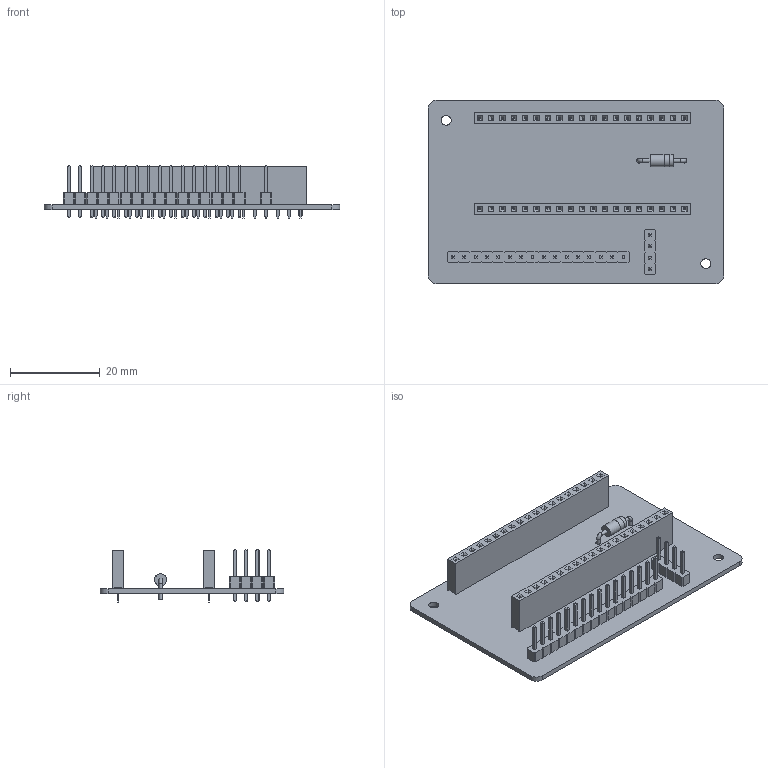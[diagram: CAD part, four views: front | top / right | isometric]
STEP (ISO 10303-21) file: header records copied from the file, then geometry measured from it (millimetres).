
FILE_DESCRIPTION(('KiCad electronic assembly'),'2;1');
FILE_NAME('bb1_wiring_board_v2.step','2026-11-18T21:26:43',('Pcbnew'),( 'Kicad'),'Open CASCADE STEP processor 7.9','KiCad to STEP converter' ,'Unknown');
FILE_SCHEMA(('AUTOMOTIVE_DESIGN { 1 0 10303 214 1 1 1 1 }'));
Length unit declared in the file: millimetre
Products named in the file (10): bb1_wiring_board_v2 1; PinHeader_1x04_P2.54mm_Vertical; PinHeader_1x04_P254mm_Vertical; PinSocket_1x19_P2.54mm_Vertical; D_DO-41_SOD81_P10.16mm_Horizontal; PinHeader_1x16_P2.54mm_Vertical; PinHeader_1x16_P254mm_Vertical; bb1_wiring_board_v2_PCB
Assembly tree (10 placements, depth 3):
  bb1_wiring_board_v2 1
    PinHeader_1x04_P2.54mm_Vertical
      PinHeader_1x04_P254mm_Vertical
    PinSocket_1x19_P2.54mm_Vertical  x2
      PinSocket_1x19_P2.54mm_Vertical
    D_DO-41_SOD81_P10.16mm_Horizontal
      D_DO-41_SOD81_P10.16mm_Horizontal
    PinHeader_1x16_P2.54mm_Vertical
      PinHeader_1x16_P254mm_Vertical
    bb1_wiring_board_v2_PCB
Bounding box: 66 x 41 x 11.64 mm (x, y, z)
Volume: 5332 mm3; surface area: 10032.7 mm2
Topology: 6 solids, 6 shells, 1583 faces, 4037 edges, 2586 vertices
Faces by surface type: plane 1508, cylinder 73, torus 2
Full cylindrical faces by diameter (mm): 0.8 x4, 1 x58, 1.1 x2, 2.2 x2, 2.7 x2, 2.72 x1
Entity records: 41345 total; most frequent: CARTESIAN_POINT 5545, ORIENTED_EDGE 5442, DIRECTION 5049, EDGE_CURVE 2721, LINE 2573, VECTOR 2573, VERTEX_POINT 1734, FACE_BOUND 1285
